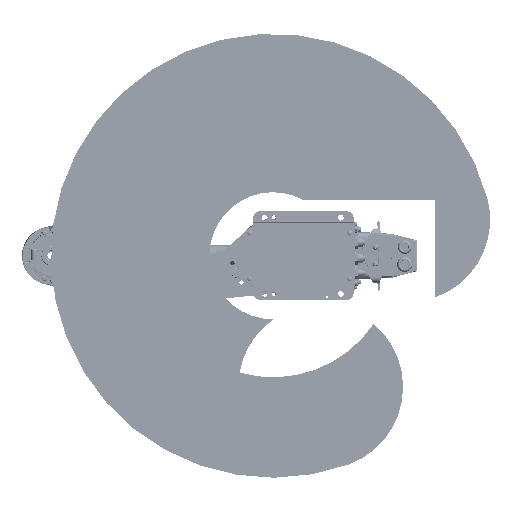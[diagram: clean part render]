
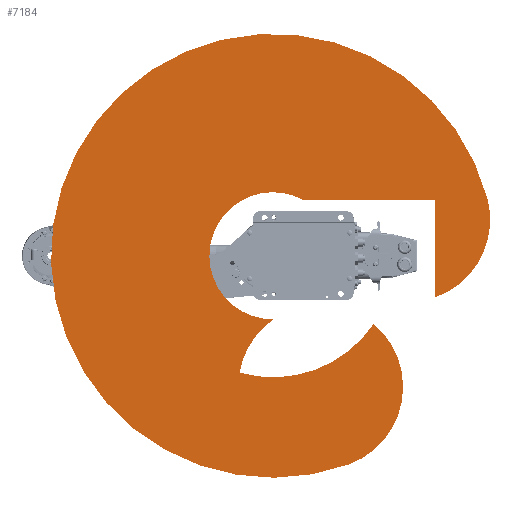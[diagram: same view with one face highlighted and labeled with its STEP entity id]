
A CAD part, front view. The second image highlights one B-rep face of the part: STEP entity #7184.
In plain terms, the highlighted planar face has unit normal (0, -1, 0).
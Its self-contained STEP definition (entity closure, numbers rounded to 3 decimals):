
#7184 = ADVANCED_FACE( '', ( #17508 ), #17509, .F. );
#17508 = FACE_OUTER_BOUND( '', #32173, .T. );
#17509 = PLANE( '', #32174 );
#32173 = EDGE_LOOP( '', ( #54508, #54509, #54510, #54511, #54512, #54513, #54514, #54515 ) );
#32174 = AXIS2_PLACEMENT_3D( '', #54516, #54517, #54518 );
#54508 = ORIENTED_EDGE( '', *, *, #83996, .T. );
#54509 = ORIENTED_EDGE( '', *, *, #83997, .F. );
#54510 = ORIENTED_EDGE( '', *, *, #78040, .F. );
#54511 = ORIENTED_EDGE( '', *, *, #83998, .F. );
#54512 = ORIENTED_EDGE( '', *, *, #83999, .T. );
#54513 = ORIENTED_EDGE( '', *, *, #84000, .T. );
#54514 = ORIENTED_EDGE( '', *, *, #82343, .T. );
#54515 = ORIENTED_EDGE( '', *, *, #83939, .T. );
#54516 = CARTESIAN_POINT( '', ( 103.366, 0., 37.622 ) );
#54517 = DIRECTION( '', ( 0., 1., 0. ) );
#54518 = DIRECTION( '', ( 0., 0., 1. ) );
#78040 = EDGE_CURVE( '', #91816, #91817, #91818, .T. );
#82343 = EDGE_CURVE( '', #99110, #99111, #99112, .T. );
#83939 = EDGE_CURVE( '', #99111, #101592, #101593, .T. );
#83996 = EDGE_CURVE( '', #101592, #101681, #101682, .T. );
#83997 = EDGE_CURVE( '', #91817, #101681, #101683, .T. );
#83998 = EDGE_CURVE( '', #101684, #91816, #101685, .T. );
#83999 = EDGE_CURVE( '', #101684, #101686, #101687, .T. );
#84000 = EDGE_CURVE( '', #101686, #99110, #101688, .T. );
#91816 = VERTEX_POINT( '', #112108 );
#91817 = VERTEX_POINT( '', #112109 );
#91818 = CIRCLE( '', #112110, 350. );
#99110 = VERTEX_POINT( '', #123991 );
#99111 = VERTEX_POINT( '', #123992 );
#99112 = CIRCLE( '', #123993, 100.24 );
#101592 = VERTEX_POINT( '', #128194 );
#101593 = LINE( '', #128195, #128196 );
#101681 = VERTEX_POINT( '', #128311 );
#101682 = LINE( '', #128312, #128313 );
#101683 = CIRCLE( '', #128314, 130. );
#101684 = VERTEX_POINT( '', #128315 );
#101685 = CIRCLE( '', #128316, 130. );
#101686 = VERTEX_POINT( '', #128317 );
#101687 = CIRCLE( '', #128318, 191.57 );
#101688 = CIRCLE( '', #128319, 130. );
#112108 = CARTESIAN_POINT( '', ( 328.892, 0., 119.707 ) );
#112109 = CARTESIAN_POINT( '', ( -90.587, 0., 338.074 ) );
#112110 = AXIS2_PLACEMENT_3D( '', #143745, #143746, #143747 );
#123991 = CARTESIAN_POINT( '', ( 100.238, 0., 0.687 ) );
#123992 = CARTESIAN_POINT( '', ( -88., 0., 48.001 ) );
#123993 = AXIS2_PLACEMENT_3D( '', #148647, #148648, #148649 );
#128194 = CARTESIAN_POINT( '', ( -88., 0., 255. ) );
#128195 = CARTESIAN_POINT( '', ( -88., 0., 48.001 ) );
#128196 = VECTOR( '', #150423, 1000. );
#128311 = CARTESIAN_POINT( '', ( 65.918, 0., 255. ) );
#128312 = CARTESIAN_POINT( '', ( -88., 0., 255. ) );
#128313 = VECTOR( '', #150499, 1000. );
#128314 = AXIS2_PLACEMENT_3D( '', #150500, #150501, #150502 );
#128315 = CARTESIAN_POINT( '', ( 107.145, 0., 158.805 ) );
#128316 = AXIS2_PLACEMENT_3D( '', #150503, #150504, #150505 );
#128317 = CARTESIAN_POINT( '', ( 184.156, 0., -52.78 ) );
#128318 = AXIS2_PLACEMENT_3D( '', #150506, #150507, #150508 );
#128319 = AXIS2_PLACEMENT_3D( '', #150509, #150510, #150511 );
#143745 = CARTESIAN_POINT( '', ( 0., 0., 0. ) );
#143746 = DIRECTION( '', ( 0., 1., 0. ) );
#143747 = DIRECTION( '', ( 1., 0., 0. ) );
#148647 = CARTESIAN_POINT( '', ( 0., 0., 0. ) );
#148648 = DIRECTION( '', ( 0., 1., 0. ) );
#148649 = DIRECTION( '', ( 1., 0., 0. ) );
#150423 = DIRECTION( '', ( 0., 0., 1. ) );
#150499 = DIRECTION( '', ( 1., 0., 0. ) );
#150500 = CARTESIAN_POINT( '', ( -56.94, 0., 212.504 ) );
#150501 = DIRECTION( '', ( 0., 1., 0. ) );
#150502 = DIRECTION( '', ( 1., 0., 0. ) );
#150503 = CARTESIAN_POINT( '', ( 206.732, 0., 75.244 ) );
#150504 = DIRECTION( '', ( 0., 1., 0. ) );
#150505 = DIRECTION( '', ( 1., 0., 0. ) );
#150506 = CARTESIAN_POINT( '', ( 0., 0., 0. ) );
#150507 = DIRECTION( '', ( 0., 1., 0. ) );
#150508 = DIRECTION( '', ( 1., 0., 0. ) );
#150509 = CARTESIAN_POINT( '', ( 206.732, 0., 75.244 ) );
#150510 = DIRECTION( '', ( 0., 1., 0. ) );
#150511 = DIRECTION( '', ( 1., 0., 0. ) );
